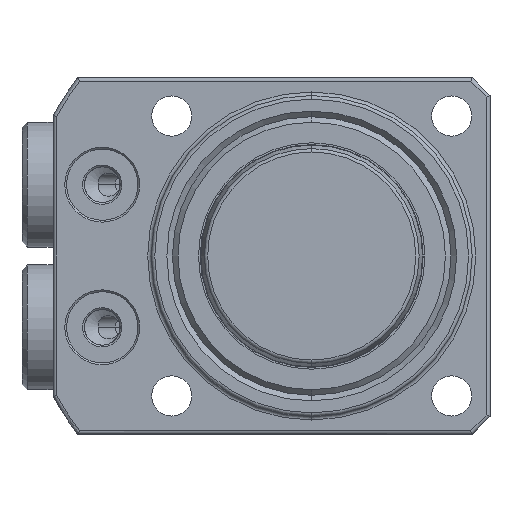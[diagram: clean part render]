
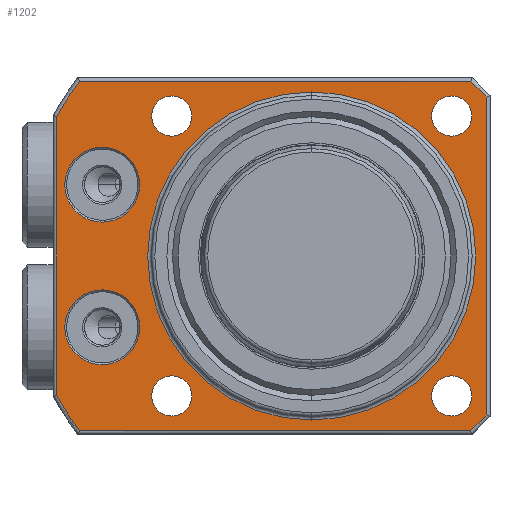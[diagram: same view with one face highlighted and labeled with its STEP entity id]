
A CAD part, front view. The second image highlights one B-rep face of the part: STEP entity #1202.
In plain terms, the highlighted planar face has unit normal (0, -1, 0) as drawn and (1, 0, 0) by its records, which use the part's own axes.
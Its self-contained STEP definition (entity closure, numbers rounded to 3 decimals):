
#967=PLANE('',#4618);
#1036=FACE_BOUND('',#1691,.T.);
#1037=FACE_BOUND('',#1692,.T.);
#1038=FACE_BOUND('',#1693,.T.);
#1039=FACE_BOUND('',#1694,.T.);
#1040=FACE_BOUND('',#1695,.T.);
#1041=FACE_BOUND('',#1696,.T.);
#1042=FACE_BOUND('',#1697,.T.);
#1043=FACE_BOUND('',#1698,.T.);
#1202=ADVANCED_FACE('',(#1036,#1037,#1038,#1039,#1040,#1041,#1042,#1043),
#967,.F.);
#1691=EDGE_LOOP('',(#2535,#2536));
#1692=EDGE_LOOP('',(#2537,#2538));
#1693=EDGE_LOOP('',(#2539,#2540,#2541,#2542,#2543,#2544,#2545,#2546));
#1694=EDGE_LOOP('',(#2547,#2548));
#1695=EDGE_LOOP('',(#2549,#2550));
#1696=EDGE_LOOP('',(#2551,#2552));
#1697=EDGE_LOOP('',(#2553,#2554));
#1698=EDGE_LOOP('',(#2555,#2556));
#1970=LINE('',#6811,#2174);
#1971=LINE('',#6814,#2175);
#1972=LINE('',#6816,#2176);
#1973=LINE('',#6820,#2177);
#1974=LINE('',#6824,#2178);
#1975=LINE('',#6826,#2179);
#2174=VECTOR('',#5303,1.);
#2175=VECTOR('',#5304,1.);
#2176=VECTOR('',#5305,1.);
#2177=VECTOR('',#5308,1.);
#2178=VECTOR('',#5311,1.);
#2179=VECTOR('',#5312,1.);
#2535=ORIENTED_EDGE('',*,*,#3737,.T.);
#2536=ORIENTED_EDGE('',*,*,#3893,.T.);
#2537=ORIENTED_EDGE('',*,*,#3732,.T.);
#2538=ORIENTED_EDGE('',*,*,#3894,.T.);
#2539=ORIENTED_EDGE('',*,*,#3895,.T.);
#2540=ORIENTED_EDGE('',*,*,#3896,.T.);
#2541=ORIENTED_EDGE('',*,*,#3897,.T.);
#2542=ORIENTED_EDGE('',*,*,#3898,.T.);
#2543=ORIENTED_EDGE('',*,*,#3899,.T.);
#2544=ORIENTED_EDGE('',*,*,#3900,.T.);
#2545=ORIENTED_EDGE('',*,*,#3901,.T.);
#2546=ORIENTED_EDGE('',*,*,#3902,.T.);
#2547=ORIENTED_EDGE('',*,*,#3903,.T.);
#2548=ORIENTED_EDGE('',*,*,#3754,.T.);
#2549=ORIENTED_EDGE('',*,*,#3904,.T.);
#2550=ORIENTED_EDGE('',*,*,#3840,.T.);
#2551=ORIENTED_EDGE('',*,*,#3905,.T.);
#2552=ORIENTED_EDGE('',*,*,#3848,.T.);
#2553=ORIENTED_EDGE('',*,*,#3906,.T.);
#2554=ORIENTED_EDGE('',*,*,#3856,.T.);
#2555=ORIENTED_EDGE('',*,*,#3907,.T.);
#2556=ORIENTED_EDGE('',*,*,#3864,.T.);
#3385=VERTEX_POINT('',#6146);
#3386=VERTEX_POINT('',#6148);
#3390=VERTEX_POINT('',#6157);
#3391=VERTEX_POINT('',#6159);
#3407=VERTEX_POINT('',#6196);
#3408=VERTEX_POINT('',#6197);
#3475=VERTEX_POINT('',#6533);
#3476=VERTEX_POINT('',#6534);
#3483=VERTEX_POINT('',#6581);
#3484=VERTEX_POINT('',#6582);
#3491=VERTEX_POINT('',#6629);
#3492=VERTEX_POINT('',#6630);
#3499=VERTEX_POINT('',#6677);
#3500=VERTEX_POINT('',#6678);
#3515=VERTEX_POINT('',#6812);
#3516=VERTEX_POINT('',#6813);
#3517=VERTEX_POINT('',#6815);
#3518=VERTEX_POINT('',#6817);
#3519=VERTEX_POINT('',#6819);
#3520=VERTEX_POINT('',#6821);
#3521=VERTEX_POINT('',#6823);
#3522=VERTEX_POINT('',#6825);
#3732=EDGE_CURVE('',#3386,#3385,#4246,.T.);
#3737=EDGE_CURVE('',#3391,#3390,#4249,.T.);
#3754=EDGE_CURVE('',#3407,#3408,#4261,.T.);
#3840=EDGE_CURVE('',#3475,#3476,#4300,.T.);
#3848=EDGE_CURVE('',#3483,#3484,#4303,.T.);
#3856=EDGE_CURVE('',#3491,#3492,#4306,.T.);
#3864=EDGE_CURVE('',#3499,#3500,#4309,.T.);
#3893=EDGE_CURVE('',#3390,#3391,#4321,.T.);
#3894=EDGE_CURVE('',#3385,#3386,#4322,.T.);
#3895=EDGE_CURVE('',#3515,#3516,#1970,.T.);
#3896=EDGE_CURVE('',#3516,#3517,#1971,.T.);
#3897=EDGE_CURVE('',#3517,#3518,#1972,.T.);
#3898=EDGE_CURVE('',#3518,#3519,#4323,.T.);
#3899=EDGE_CURVE('',#3519,#3520,#1973,.T.);
#3900=EDGE_CURVE('',#3520,#3521,#4324,.T.);
#3901=EDGE_CURVE('',#3521,#3522,#1974,.T.);
#3902=EDGE_CURVE('',#3522,#3515,#1975,.T.);
#3903=EDGE_CURVE('',#3408,#3407,#4325,.T.);
#3904=EDGE_CURVE('',#3476,#3475,#4326,.T.);
#3905=EDGE_CURVE('',#3484,#3483,#4327,.T.);
#3906=EDGE_CURVE('',#3492,#3491,#4328,.T.);
#3907=EDGE_CURVE('',#3500,#3499,#4329,.T.);
#4246=CIRCLE('',#4495,4.2);
#4249=CIRCLE('',#4499,4.2);
#4261=CIRCLE('',#4515,18.4);
#4300=CIRCLE('',#4575,2.25);
#4303=CIRCLE('',#4580,2.25);
#4306=CIRCLE('',#4585,2.25);
#4309=CIRCLE('',#4590,2.25);
#4321=CIRCLE('',#4609,4.2);
#4322=CIRCLE('',#4610,4.2);
#4323=CIRCLE('',#4611,32.6);
#4324=CIRCLE('',#4612,32.6);
#4325=CIRCLE('',#4613,18.4);
#4326=CIRCLE('',#4614,2.25);
#4327=CIRCLE('',#4615,2.25);
#4328=CIRCLE('',#4616,2.25);
#4329=CIRCLE('',#4617,2.25);
#4495=AXIS2_PLACEMENT_3D('',#6147,#5007,#5008);
#4499=AXIS2_PLACEMENT_3D('',#6158,#5017,#5018);
#4515=AXIS2_PLACEMENT_3D('',#6195,#5054,#5055);
#4575=AXIS2_PLACEMENT_3D('',#6532,#5210,#5211);
#4580=AXIS2_PLACEMENT_3D('',#6580,#5224,#5225);
#4585=AXIS2_PLACEMENT_3D('',#6628,#5238,#5239);
#4590=AXIS2_PLACEMENT_3D('',#6676,#5252,#5253);
#4609=AXIS2_PLACEMENT_3D('',#6809,#5299,#5300);
#4610=AXIS2_PLACEMENT_3D('',#6810,#5301,#5302);
#4611=AXIS2_PLACEMENT_3D('',#6818,#5306,#5307);
#4612=AXIS2_PLACEMENT_3D('',#6822,#5309,#5310);
#4613=AXIS2_PLACEMENT_3D('',#6827,#5313,#5314);
#4614=AXIS2_PLACEMENT_3D('',#6828,#5315,#5316);
#4615=AXIS2_PLACEMENT_3D('',#6829,#5317,#5318);
#4616=AXIS2_PLACEMENT_3D('',#6830,#5319,#5320);
#4617=AXIS2_PLACEMENT_3D('',#6831,#5321,#5322);
#4618=AXIS2_PLACEMENT_3D('',#6832,#5323,#5324);
#5007=DIRECTION('',(-1.,0.,0.));
#5008=DIRECTION('',(0.,0.,1.));
#5017=DIRECTION('',(-1.,0.,0.));
#5018=DIRECTION('',(0.,0.,1.));
#5054=DIRECTION('',(-1.,0.,0.));
#5055=DIRECTION('',(0.,0.,1.));
#5210=DIRECTION('',(-1.,0.,0.));
#5211=DIRECTION('',(0.,0.,1.));
#5224=DIRECTION('',(-1.,0.,0.));
#5225=DIRECTION('',(0.,0.,1.));
#5238=DIRECTION('',(-1.,0.,0.));
#5239=DIRECTION('',(0.,0.,1.));
#5252=DIRECTION('',(-1.,0.,0.));
#5253=DIRECTION('',(0.,0.,1.));
#5299=DIRECTION('',(-1.,0.,0.));
#5300=DIRECTION('',(0.,0.,1.));
#5301=DIRECTION('',(-1.,0.,0.));
#5302=DIRECTION('',(0.,0.,1.));
#5303=DIRECTION('',(0.,0.,1.));
#5304=DIRECTION('',(0.,-0.707,0.707));
#5305=DIRECTION('',(0.,-1.,0.));
#5306=DIRECTION('',(1.,0.,0.));
#5307=DIRECTION('',(0.,0.,1.));
#5308=DIRECTION('',(0.,0.,-1.));
#5309=DIRECTION('',(1.,0.,0.));
#5310=DIRECTION('',(0.,0.,1.));
#5311=DIRECTION('',(0.,1.,0.));
#5312=DIRECTION('',(0.,0.707,0.707));
#5313=DIRECTION('',(-1.,0.,0.));
#5314=DIRECTION('',(0.,0.,1.));
#5315=DIRECTION('',(-1.,0.,0.));
#5316=DIRECTION('',(0.,0.,1.));
#5317=DIRECTION('',(-1.,0.,0.));
#5318=DIRECTION('',(0.,0.,1.));
#5319=DIRECTION('',(-1.,0.,0.));
#5320=DIRECTION('',(0.,0.,1.));
#5321=DIRECTION('',(-1.,0.,0.));
#5322=DIRECTION('',(0.,0.,1.));
#5323=DIRECTION('',(-1.,0.,0.));
#5324=DIRECTION('',(0.,0.,-1.));
#6146=CARTESIAN_POINT('',(0.,-23.5,12.2));
#6147=CARTESIAN_POINT('',(0.,-23.5,8.));
#6148=CARTESIAN_POINT('',(0.,-23.5,3.8));
#6157=CARTESIAN_POINT('',(0.,-23.5,-3.8));
#6158=CARTESIAN_POINT('',(0.,-23.5,-8.));
#6159=CARTESIAN_POINT('',(0.,-23.5,-12.2));
#6195=CARTESIAN_POINT('',(0.,0.,0.));
#6196=CARTESIAN_POINT('',(0.,0.,-18.4));
#6197=CARTESIAN_POINT('',(0.,0.,18.4));
#6532=CARTESIAN_POINT('',(0.,15.7,-15.7));
#6533=CARTESIAN_POINT('',(0.,15.7,-17.95));
#6534=CARTESIAN_POINT('',(0.,15.7,-13.45));
#6580=CARTESIAN_POINT('',(0.,15.7,15.7));
#6581=CARTESIAN_POINT('',(0.,15.7,13.45));
#6582=CARTESIAN_POINT('',(0.,15.7,17.95));
#6628=CARTESIAN_POINT('',(0.,-15.7,15.7));
#6629=CARTESIAN_POINT('',(0.,-15.7,13.45));
#6630=CARTESIAN_POINT('',(0.,-15.7,17.95));
#6676=CARTESIAN_POINT('',(0.,-15.7,-15.7));
#6677=CARTESIAN_POINT('',(0.,-15.7,-17.95));
#6678=CARTESIAN_POINT('',(0.,-15.7,-13.45));
#6809=CARTESIAN_POINT('',(0.,-23.5,-8.));
#6810=CARTESIAN_POINT('',(0.,-23.5,8.));
#6811=CARTESIAN_POINT('',(0.,19.6,18.));
#6812=CARTESIAN_POINT('',(0.,19.6,-17.834));
#6813=CARTESIAN_POINT('',(0.,19.6,17.834));
#6814=CARTESIAN_POINT('',(0.,17.717,19.717));
#6815=CARTESIAN_POINT('',(0.,17.834,19.6));
#6816=CARTESIAN_POINT('',(0.,-26.249,19.6));
#6817=CARTESIAN_POINT('',(0.,-26.05,19.6));
#6818=CARTESIAN_POINT('',(0.,0.,0.));
#6819=CARTESIAN_POINT('',(0.,-28.6,15.646));
#6820=CARTESIAN_POINT('',(0.,-28.6,-15.748));
#6821=CARTESIAN_POINT('',(0.,-28.6,-15.646));
#6822=CARTESIAN_POINT('',(0.,0.,0.));
#6823=CARTESIAN_POINT('',(0.,-26.05,-19.6));
#6824=CARTESIAN_POINT('',(0.,18.,-19.6));
#6825=CARTESIAN_POINT('',(0.,17.834,-19.6));
#6826=CARTESIAN_POINT('',(0.,19.717,-17.717));
#6827=CARTESIAN_POINT('',(0.,0.,0.));
#6828=CARTESIAN_POINT('',(0.,15.7,-15.7));
#6829=CARTESIAN_POINT('',(0.,15.7,15.7));
#6830=CARTESIAN_POINT('',(0.,-15.7,15.7));
#6831=CARTESIAN_POINT('',(0.,-15.7,-15.7));
#6832=CARTESIAN_POINT('',(0.,0.,0.));
